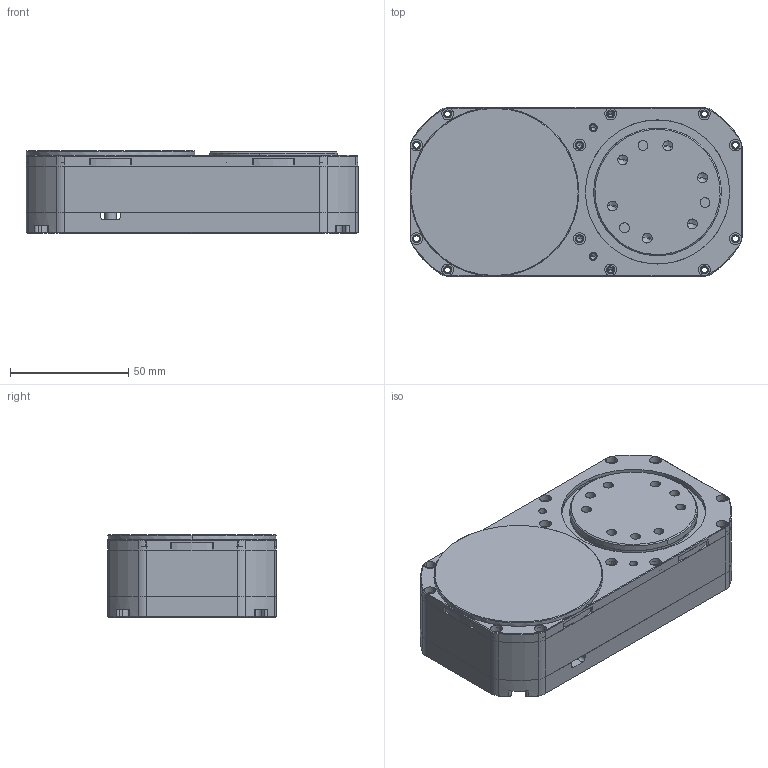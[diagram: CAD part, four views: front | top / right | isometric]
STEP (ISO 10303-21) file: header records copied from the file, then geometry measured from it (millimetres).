
FILE_DESCRIPTION (( 'STEP AP214' ), '1' );
FILE_NAME ('70嗆儂潠眢耀倰.STEP', '2025-04-18T04:35:24', ( '' ), ( '' ), 'SwSTEP 2.0', 'SolidWorks 2024', '' );
FILE_SCHEMA (( 'AUTOMOTIVE_DESIGN' ));
Length unit declared in the file: millimetre
Products named in the file (6): 0226外壳1.1; 0226齿轮盖03121.1; 0226轴承盖1.1; 0226-50-66-8CRBS 508 A UUiko1.1; 0226舵机输出盘1.1; 70舵机简易模型
Assembly tree (5 placements, depth 2):
  70舵机简易模型
    0226外壳1.1
    0226齿轮盖03121.1
    0226-50-66-8CRBS 508 A UUiko1.1
    0226舵机输出盘1.1
    0226轴承盖1.1
Bounding box: 140.5 x 71.5 x 35 mm (x, y, z)
Volume: 121864.5 mm3; surface area: 97385.8 mm2
Topology: 5 solids, 5 shells, 730 faces, 1915 edges, 1191 vertices
Faces by surface type: cylinder 413, plane 186, cone 131
Entity records: 22696 total; most frequent: DIRECTION 4247, CARTESIAN_POINT 3922, ORIENTED_EDGE 3702, EDGE_CURVE 1851, AXIS2_PLACEMENT_3D 1688, VERTEX_POINT 1191, CIRCLE 950, EDGE_LOOP 874
